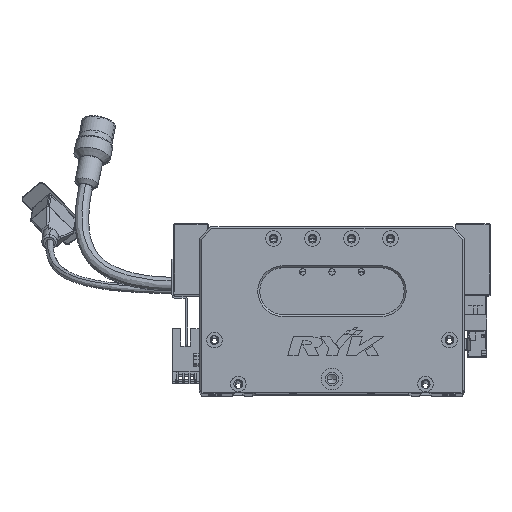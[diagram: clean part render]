
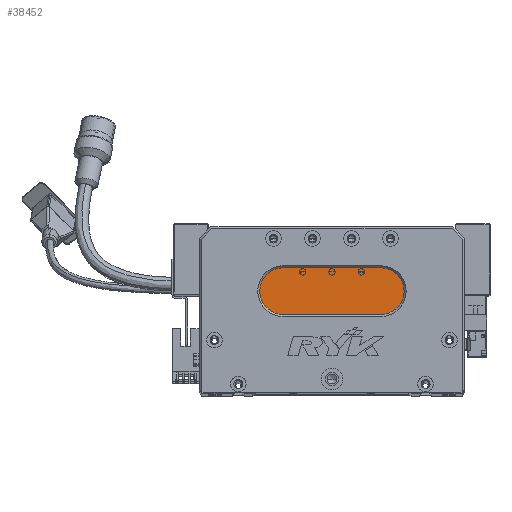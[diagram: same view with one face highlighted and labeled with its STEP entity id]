
A CAD part, top view. The second image highlights one B-rep face of the part: STEP entity #38452.
In plain terms, the highlighted planar face has unit normal (0, 0, 1) as drawn and (0, 0, -1) by its records, which use the part's own axes.
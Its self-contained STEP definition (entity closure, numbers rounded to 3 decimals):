
#2001 = CARTESIAN_POINT ( 'NONE',  ( 93., 40., 13. ) ) ;
#3370 = VECTOR ( 'NONE', #60377, 1000. ) ;
#6019 = AXIS2_PLACEMENT_3D ( 'NONE', #32507, #74578, #50713 ) ;
#8488 = CARTESIAN_POINT ( 'NONE',  ( 43., 40., 13. ) ) ;
#8835 = EDGE_CURVE ( 'NONE', #25707, #58822, #22915, .T. ) ;
#8839 = ORIENTED_EDGE ( 'NONE', *, *, #35875, .T. ) ;
#9212 = ORIENTED_EDGE ( 'NONE', *, *, #71355, .T. ) ;
#11441 = CARTESIAN_POINT ( 'NONE',  ( 93., 40., 13. ) ) ;
#11834 = DIRECTION ( 'NONE',  ( -1., 0., 0. ) ) ;
#11849 = AXIS2_PLACEMENT_3D ( 'NONE', #42795, #60543, #11834 ) ;
#12114 = AXIS2_PLACEMENT_3D ( 'NONE', #61394, #29502, #23643 ) ;
#15442 = FACE_OUTER_BOUND ( 'NONE', #49882, .T. ) ;
#17807 = CARTESIAN_POINT ( 'NONE',  ( 93., 64., 13. ) ) ;
#18960 = EDGE_CURVE ( 'NONE', #36083, #71669, #30463, .T. ) ;
#20780 = ORIENTED_EDGE ( 'NONE', *, *, #65243, .T. ) ;
#22915 = CIRCLE ( 'NONE', #12114, 12. ) ;
#23643 = DIRECTION ( 'NONE',  ( -1., 0., 0. ) ) ;
#25707 = VERTEX_POINT ( 'NONE', #53033 ) ;
#29502 = DIRECTION ( 'NONE',  ( 0., 0., -1. ) ) ;
#30463 = CIRCLE ( 'NONE', #6019, 12. ) ;
#31336 = DIRECTION ( 'NONE',  ( 0., 0., -1. ) ) ;
#32507 = CARTESIAN_POINT ( 'NONE',  ( 93., 52., 13. ) ) ;
#35875 = EDGE_CURVE ( 'NONE', #50323, #25707, #69275, .T. ) ;
#36083 = VERTEX_POINT ( 'NONE', #64499 ) ;
#36663 = PLANE ( 'NONE',  #11849 ) ;
#38452 = ADVANCED_FACE ( 'NONE', ( #15442 ), #36663, .T. ) ;
#39328 = AXIS2_PLACEMENT_3D ( 'NONE', #55193, #31336, #67526 ) ;
#42693 = CARTESIAN_POINT ( 'NONE',  ( 43., 64., 13. ) ) ;
#42795 = CARTESIAN_POINT ( 'NONE',  ( 93., 52., 13. ) ) ;
#46165 = VECTOR ( 'NONE', #53191, 1000. ) ;
#49882 = EDGE_LOOP ( 'NONE', ( #66492, #20780, #8839, #64639, #9212 ) ) ;
#50323 = VERTEX_POINT ( 'NONE', #8488 ) ;
#50713 = DIRECTION ( 'NONE',  ( -1., 0., 0. ) ) ;
#53033 = CARTESIAN_POINT ( 'NONE',  ( 31., 52., 13. ) ) ;
#53191 = DIRECTION ( 'NONE',  ( -1., 0., 0. ) ) ;
#55193 = CARTESIAN_POINT ( 'NONE',  ( 43., 52., 13. ) ) ;
#58822 = VERTEX_POINT ( 'NONE', #42693 ) ;
#60377 = DIRECTION ( 'NONE',  ( 1., 0., 0. ) ) ;
#60543 = DIRECTION ( 'NONE',  ( 0., 0., -1. ) ) ;
#61394 = CARTESIAN_POINT ( 'NONE',  ( 43., 52., 13. ) ) ;
#64499 = CARTESIAN_POINT ( 'NONE',  ( 93., 64., 13. ) ) ;
#64639 = ORIENTED_EDGE ( 'NONE', *, *, #8835, .T. ) ;
#65243 = EDGE_CURVE ( 'NONE', #71669, #50323, #77845, .T. ) ;
#66492 = ORIENTED_EDGE ( 'NONE', *, *, #18960, .T. ) ;
#67526 = DIRECTION ( 'NONE',  ( -1., 0., 0. ) ) ;
#69275 = CIRCLE ( 'NONE', #39328, 12. ) ;
#71355 = EDGE_CURVE ( 'NONE', #58822, #36083, #78986, .T. ) ;
#71669 = VERTEX_POINT ( 'NONE', #2001 ) ;
#74578 = DIRECTION ( 'NONE',  ( 0., 0., -1. ) ) ;
#77845 = LINE ( 'NONE', #11441, #46165 ) ;
#78986 = LINE ( 'NONE', #17807, #3370 ) ;
